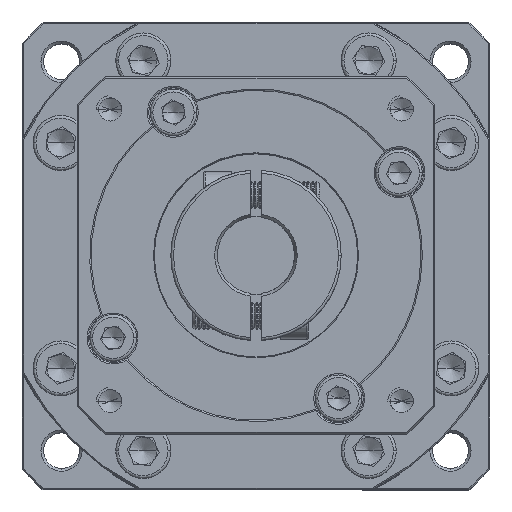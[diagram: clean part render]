
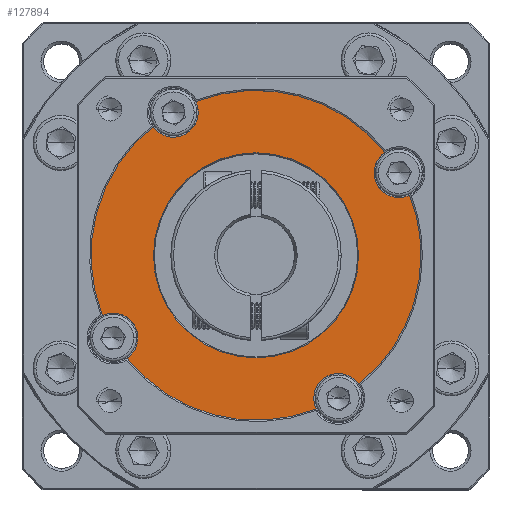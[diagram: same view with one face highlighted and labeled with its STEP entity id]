
A CAD part, top view. The second image highlights one B-rep face of the part: STEP entity #127894.
In plain terms, the highlighted planar face has unit normal (0, 0, 1).
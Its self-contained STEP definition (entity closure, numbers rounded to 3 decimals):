
#522 = EDGE_CURVE ( 'NONE', #98532, #89529, #122958, .T. ) ;
#1571 = AXIS2_PLACEMENT_3D ( 'NONE', #11668, #2502, #32212 ) ;
#2502 = DIRECTION ( 'NONE',  ( 0., 0., 1. ) ) ;
#2842 = CARTESIAN_POINT ( 'NONE',  ( -56.253, 38.027, -14.057 ) ) ;
#3967 = DIRECTION ( 'NONE',  ( 0., 0., 1. ) ) ;
#5304 = ORIENTED_EDGE ( 'NONE', *, *, #522, .F. ) ;
#5615 = EDGE_CURVE ( 'NONE', #36793, #17439, #106718, .T. ) ;
#6032 = CARTESIAN_POINT ( 'NONE',  ( -32.808, 56.745, -14.057 ) ) ;
#6276 = CIRCLE ( 'NONE', #43512, 30. ) ;
#6607 = ORIENTED_EDGE ( 'NONE', *, *, #55905, .T. ) ;
#7179 = VERTEX_POINT ( 'NONE', #75569 ) ;
#8004 = CIRCLE ( 'NONE', #63825, 4.5 ) ;
#11200 = VERTEX_POINT ( 'NONE', #84550 ) ;
#11668 = CARTESIAN_POINT ( 'NONE',  ( -47.808, 82.726, -14.057 ) ) ;
#12010 = VERTEX_POINT ( 'NONE', #123352 ) ;
#12784 = EDGE_CURVE ( 'NONE', #11200, #30531, #90864, .T. ) ;
#14071 = DIRECTION ( 'NONE',  ( 0., 0., -1. ) ) ;
#14936 = CIRCLE ( 'NONE', #78825, 18.644 ) ;
#16096 = DIRECTION ( 'NONE',  ( 0., 0., 1. ) ) ;
#16193 = EDGE_CURVE ( 'NONE', #93880, #89833, #34155, .T. ) ;
#17072 = ORIENTED_EDGE ( 'NONE', *, *, #95803, .T. ) ;
#17439 = VERTEX_POINT ( 'NONE', #116561 ) ;
#17471 = ORIENTED_EDGE ( 'NONE', *, *, #5615, .F. ) ;
#19008 = DIRECTION ( 'NONE',  ( 1., 0., 0. ) ) ;
#19429 = CARTESIAN_POINT ( 'NONE',  ( -17.808, 30.764, -14.057 ) ) ;
#19936 = VERTEX_POINT ( 'NONE', #2842 ) ;
#20136 = CIRCLE ( 'NONE', #20661, 30. ) ;
#20661 = AXIS2_PLACEMENT_3D ( 'NONE', #81911, #92394, #53067 ) ;
#22717 = DIRECTION ( 'NONE',  ( 1., 0., 0. ) ) ;
#24073 = AXIS2_PLACEMENT_3D ( 'NONE', #116437, #36887, #126953 ) ;
#24241 = EDGE_CURVE ( 'NONE', #89833, #93880, #14936, .T. ) ;
#29091 = VERTEX_POINT ( 'NONE', #85660 ) ;
#30531 = VERTEX_POINT ( 'NONE', #64613 ) ;
#31572 = ORIENTED_EDGE ( 'NONE', *, *, #24241, .T. ) ;
#32212 = DIRECTION ( 'NONE',  ( 1., 0., 0. ) ) ;
#32664 = AXIS2_PLACEMENT_3D ( 'NONE', #76189, #87994, #97629 ) ;
#32698 = CARTESIAN_POINT ( 'NONE',  ( -43.308, 82.726, -14.057 ) ) ;
#32725 = DIRECTION ( 'NONE',  ( 1., 0., 0. ) ) ;
#32909 = DIRECTION ( 'NONE',  ( 0., 0., 1. ) ) ;
#34155 = CIRCLE ( 'NONE', #126377, 18.644 ) ;
#35062 = DIRECTION ( 'NONE',  ( 1., 0., 0. ) ) ;
#36793 = VERTEX_POINT ( 'NONE', #74437 ) ;
#36887 = DIRECTION ( 'NONE',  ( 0., 0., 1. ) ) ;
#37946 = CARTESIAN_POINT ( 'NONE',  ( -14.09, 33.3, -14.057 ) ) ;
#39959 = VERTEX_POINT ( 'NONE', #37946 ) ;
#43142 = DIRECTION ( 'NONE',  ( 0., 0., 1. ) ) ;
#43512 = AXIS2_PLACEMENT_3D ( 'NONE', #75081, #16096, #66306 ) ;
#44279 = CARTESIAN_POINT ( 'NONE',  ( -43.753, 84.677, -14.057 ) ) ;
#44413 = AXIS2_PLACEMENT_3D ( 'NONE', #19429, #48276, #19008 ) ;
#44945 = AXIS2_PLACEMENT_3D ( 'NONE', #54565, #3967, #74640 ) ;
#45144 = DIRECTION ( 'NONE',  ( 1., 0., 0. ) ) ;
#45329 = EDGE_CURVE ( 'NONE', #98532, #29091, #20136, .T. ) ;
#45610 = DIRECTION ( 'NONE',  ( 1., 0., 0. ) ) ;
#47991 = ORIENTED_EDGE ( 'NONE', *, *, #103831, .F. ) ;
#48276 = DIRECTION ( 'NONE',  ( 0., 0., 1. ) ) ;
#49164 = EDGE_CURVE ( 'NONE', #89529, #106874, #8004, .T. ) ;
#52694 = CIRCLE ( 'NONE', #123409, 30. ) ;
#52983 = CARTESIAN_POINT ( 'NONE',  ( -32.808, 56.745, -14.057 ) ) ;
#53067 = DIRECTION ( 'NONE',  ( 1., 0., 0. ) ) ;
#54565 = CARTESIAN_POINT ( 'NONE',  ( -6.827, 71.745, -14.057 ) ) ;
#54651 = EDGE_CURVE ( 'NONE', #17439, #12010, #69398, .T. ) ;
#55905 = EDGE_CURVE ( 'NONE', #64214, #12010, #6276, .T. ) ;
#57971 = ORIENTED_EDGE ( 'NONE', *, *, #91223, .T. ) ;
#59215 = CIRCLE ( 'NONE', #24073, 30. ) ;
#61316 = ORIENTED_EDGE ( 'NONE', *, *, #16193, .T. ) ;
#61748 = DIRECTION ( 'NONE',  ( 0., 0., -1. ) ) ;
#63825 = AXIS2_PLACEMENT_3D ( 'NONE', #102242, #82978, #22717 ) ;
#64214 = VERTEX_POINT ( 'NONE', #125301 ) ;
#64613 = CARTESIAN_POINT ( 'NONE',  ( -21.863, 28.813, -14.057 ) ) ;
#65204 = CARTESIAN_POINT ( 'NONE',  ( -32.808, 56.745, -14.057 ) ) ;
#65218 = DIRECTION ( 'NONE',  ( 1., 0., 0. ) ) ;
#66306 = DIRECTION ( 'NONE',  ( 1., 0., 0. ) ) ;
#66491 = AXIS2_PLACEMENT_3D ( 'NONE', #6032, #126672, #75002 ) ;
#69398 = CIRCLE ( 'NONE', #114543, 4.5 ) ;
#71909 = CARTESIAN_POINT ( 'NONE',  ( -51.525, 80.19, -14.057 ) ) ;
#74437 = CARTESIAN_POINT ( 'NONE',  ( -9.363, 75.462, -14.057 ) ) ;
#74640 = DIRECTION ( 'NONE',  ( 1., 0., 0. ) ) ;
#75002 = DIRECTION ( 'NONE',  ( 1., 0., 0. ) ) ;
#75081 = CARTESIAN_POINT ( 'NONE',  ( -32.808, 56.745, -14.057 ) ) ;
#75569 = CARTESIAN_POINT ( 'NONE',  ( -54.289, 41.745, -14.057 ) ) ;
#76189 = CARTESIAN_POINT ( 'NONE',  ( -58.789, 41.745, -14.057 ) ) ;
#78065 = AXIS2_PLACEMENT_3D ( 'NONE', #105480, #105043, #65218 ) ;
#78825 = AXIS2_PLACEMENT_3D ( 'NONE', #123398, #14071, #35062 ) ;
#81911 = CARTESIAN_POINT ( 'NONE',  ( -32.808, 56.745, -14.057 ) ) ;
#82819 = EDGE_CURVE ( 'NONE', #39959, #11200, #121135, .T. ) ;
#82978 = DIRECTION ( 'NONE',  ( 0., 0., 1. ) ) ;
#84550 = CARTESIAN_POINT ( 'NONE',  ( -22.308, 30.764, -14.057 ) ) ;
#84934 = DIRECTION ( 'NONE',  ( 0., 0., 1. ) ) ;
#85660 = CARTESIAN_POINT ( 'NONE',  ( -60.74, 45.8, -14.057 ) ) ;
#87994 = DIRECTION ( 'NONE',  ( 0., 0., 1. ) ) ;
#88970 = DIRECTION ( 'NONE',  ( 1., 0., 0. ) ) ;
#89529 = VERTEX_POINT ( 'NONE', #32698 ) ;
#89833 = VERTEX_POINT ( 'NONE', #107768 ) ;
#90864 = CIRCLE ( 'NONE', #44413, 4.5 ) ;
#91223 = EDGE_CURVE ( 'NONE', #19936, #30531, #59215, .T. ) ;
#92394 = DIRECTION ( 'NONE',  ( 0., 0., 1. ) ) ;
#92553 = CARTESIAN_POINT ( 'NONE',  ( -6.827, 71.745, -14.057 ) ) ;
#93880 = VERTEX_POINT ( 'NONE', #95420 ) ;
#95420 = CARTESIAN_POINT ( 'NONE',  ( -51.452, 56.745, -14.057 ) ) ;
#95803 = EDGE_CURVE ( 'NONE', #36793, #106874, #107953, .T. ) ;
#95890 = FACE_OUTER_BOUND ( 'NONE', #127742, .T. ) ;
#97629 = DIRECTION ( 'NONE',  ( 1., 0., 0. ) ) ;
#98532 = VERTEX_POINT ( 'NONE', #71909 ) ;
#99899 = ORIENTED_EDGE ( 'NONE', *, *, #118069, .F. ) ;
#101281 = EDGE_LOOP ( 'NONE', ( #31572, #61316 ) ) ;
#101484 = AXIS2_PLACEMENT_3D ( 'NONE', #128406, #108199, #88970 ) ;
#101942 = CIRCLE ( 'NONE', #123899, 4.5 ) ;
#102242 = CARTESIAN_POINT ( 'NONE',  ( -47.808, 82.726, -14.057 ) ) ;
#103101 = ORIENTED_EDGE ( 'NONE', *, *, #54651, .F. ) ;
#103216 = DIRECTION ( 'NONE',  ( 1., 0., 0. ) ) ;
#103831 = EDGE_CURVE ( 'NONE', #19936, #7179, #101942, .T. ) ;
#105043 = DIRECTION ( 'NONE',  ( 0., 0., 1. ) ) ;
#105480 = CARTESIAN_POINT ( 'NONE',  ( -17.808, 30.764, -14.057 ) ) ;
#106718 = CIRCLE ( 'NONE', #44945, 4.5 ) ;
#106844 = CIRCLE ( 'NONE', #32664, 4.5 ) ;
#106874 = VERTEX_POINT ( 'NONE', #44279 ) ;
#107761 = PLANE ( 'NONE',  #101484 ) ;
#107768 = CARTESIAN_POINT ( 'NONE',  ( -14.164, 56.745, -14.057 ) ) ;
#107953 = CIRCLE ( 'NONE', #66491, 30. ) ;
#108199 = DIRECTION ( 'NONE',  ( 0., 0., 1. ) ) ;
#109202 = ORIENTED_EDGE ( 'NONE', *, *, #82819, .F. ) ;
#113184 = ORIENTED_EDGE ( 'NONE', *, *, #12784, .F. ) ;
#114543 = AXIS2_PLACEMENT_3D ( 'NONE', #92553, #43142, #32725 ) ;
#116039 = ORIENTED_EDGE ( 'NONE', *, *, #45329, .T. ) ;
#116437 = CARTESIAN_POINT ( 'NONE',  ( -32.808, 56.745, -14.057 ) ) ;
#116561 = CARTESIAN_POINT ( 'NONE',  ( -11.327, 71.745, -14.057 ) ) ;
#118069 = EDGE_CURVE ( 'NONE', #7179, #29091, #106844, .T. ) ;
#120409 = EDGE_CURVE ( 'NONE', #39959, #64214, #52694, .T. ) ;
#121135 = CIRCLE ( 'NONE', #78065, 4.5 ) ;
#122958 = CIRCLE ( 'NONE', #1571, 4.5 ) ;
#123352 = CARTESIAN_POINT ( 'NONE',  ( -4.876, 67.69, -14.057 ) ) ;
#123398 = CARTESIAN_POINT ( 'NONE',  ( -32.808, 56.745, -14.057 ) ) ;
#123409 = AXIS2_PLACEMENT_3D ( 'NONE', #52983, #32909, #103216 ) ;
#123899 = AXIS2_PLACEMENT_3D ( 'NONE', #126119, #84934, #45610 ) ;
#125301 = CARTESIAN_POINT ( 'NONE',  ( -2.808, 56.745, -14.057 ) ) ;
#125325 = ORIENTED_EDGE ( 'NONE', *, *, #120409, .T. ) ;
#126119 = CARTESIAN_POINT ( 'NONE',  ( -58.789, 41.745, -14.057 ) ) ;
#126377 = AXIS2_PLACEMENT_3D ( 'NONE', #65204, #61748, #45144 ) ;
#126559 = ORIENTED_EDGE ( 'NONE', *, *, #49164, .F. ) ;
#126672 = DIRECTION ( 'NONE',  ( 0., 0., 1. ) ) ;
#126953 = DIRECTION ( 'NONE',  ( 1., 0., 0. ) ) ;
#127344 = FACE_BOUND ( 'NONE', #101281, .T. ) ;
#127742 = EDGE_LOOP ( 'NONE', ( #47991, #57971, #113184, #109202, #125325, #6607, #103101, #17471, #17072, #126559, #5304, #116039, #99899 ) ) ;
#127894 = ADVANCED_FACE ( 'NONE', ( #127344, #95890 ), #107761, .T. ) ;
#128406 = CARTESIAN_POINT ( 'NONE',  ( -32.808, 56.745, -14.057 ) ) ;
